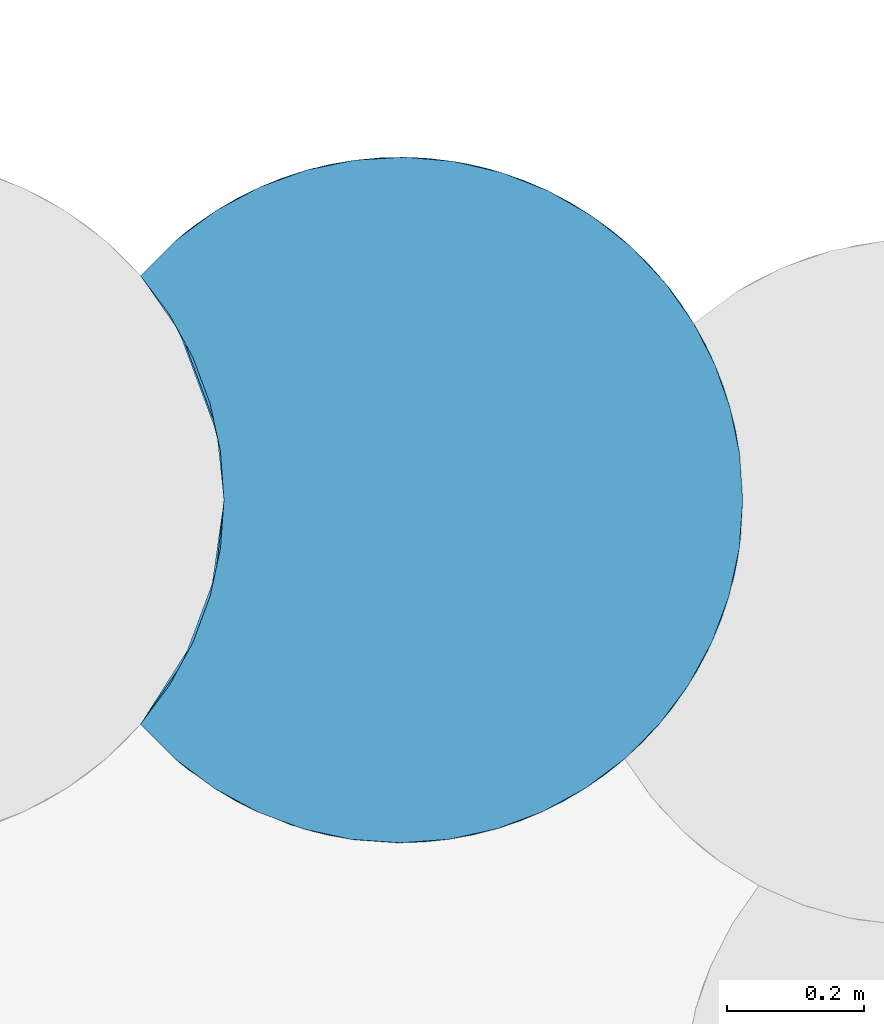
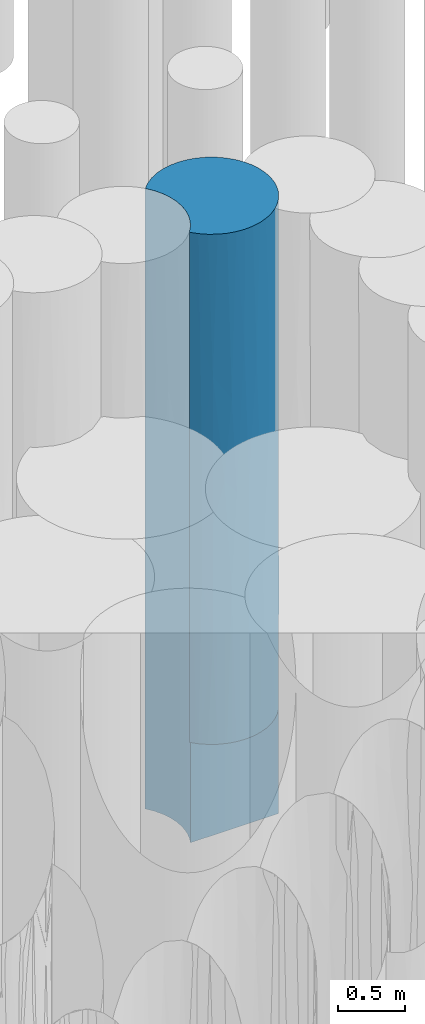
# One storey, part 31 of 104: 1 pile.
"""IFC2X3 building model written with IfcOpenShell, lengths in millimetres."""

import ifcopenshell
import ifcopenshell.guid

model = None  # the IFC model being written
_history = None  # IfcOwnerHistory: only IFC2X3 demands one
_inside = {}  # id of a spatial element -> (the spatial element, [elements in it])
_under = {}  # id of a project, library or spatial element -> (it, [spatial elements below it])
_declared = {}  # id of a project -> (the project, [libraries it declares])
_typed = {}  # id of a type object -> (the type object, [elements of that type])
_made_of = {}  # id of a material, layer set ... -> (it, [elements and type objects made of it])


def new_model(schema):
    """Start an empty IFC model of exactly this schema.

    Asked for "IFC4X3", IfcOpenShell would pick the latest addendum, in which some entities
    have other attributes; the version numbers below select the first issue.
    IFC2X3 requires an IfcOwnerHistory on every rooted entity: one is made here for all.
    """
    global model, _history
    if schema == "IFC4X3":
        model = ifcopenshell.file(schema_version=(4, 3, 0, 0))
    else:
        model = ifcopenshell.file(schema=schema)
    _inside.clear()
    _under.clear()
    _declared.clear()
    _typed.clear()
    _made_of.clear()
    _history = None
    if model.schema == "IFC2X3":
        org = make("IfcOrganization", Name="unknown")
        user = make(
            "IfcPersonAndOrganization",
            ThePerson=make("IfcPerson", FamilyName="unknown"),
            TheOrganization=org,
        )
        app = make(
            "IfcApplication",
            ApplicationDeveloper=org,
            Version="unknown",
            ApplicationFullName="unknown",
            ApplicationIdentifier="unknown",
        )
        _history = make(
            "IfcOwnerHistory",
            OwningUser=user,
            OwningApplication=app,
            ChangeAction="ADDED",
            CreationDate=0,
        )
    return model


def make(cls, **values):
    """One entity of the class cls with the attributes given. An attribute that is None is left unset."""
    return model.create_entity(
        cls, **{name: value for name, value in values.items() if value is not None}
    )


def entity(cls, *values):
    """Any entity or typed value of the class cls, its attributes in the order of the schema. None: left unset."""
    e = model.create_entity(cls)
    for i, value in enumerate(values):
        if value is not None:
            e[i] = value
    return e


def rooted(cls, **values):
    """An entity with a GlobalId (a new one), such as an element, a storey or a relation."""
    return make(cls, GlobalId=ifcopenshell.guid.new(), OwnerHistory=_history, **values)


def si_unit(unit_type, name, prefix=None):
    """IfcSIUnit, for example si_unit("LENGTHUNIT", "METRE", prefix="MILLI")."""
    return make("IfcSIUnit", UnitType=unit_type, Prefix=prefix, Name=name)


def converted_unit(unit_type, name, factor, base, dimensions=None, offset=None):
    """IfcConversionBasedUnit, such as the inch: factor (a typed value) times the base unit."""
    return make(
        "IfcConversionBasedUnit"
        if offset is None
        else "IfcConversionBasedUnitWithOffset",
        ConversionOffset=offset,
        Dimensions=None
        if dimensions is None
        else entity("IfcDimensionalExponents", *dimensions),
        UnitType=unit_type,
        Name=name,
        ConversionFactor=make(
            "IfcMeasureWithUnit", ValueComponent=factor, UnitComponent=base
        ),
    )


def derived_unit(unit_type, elements):
    """IfcDerivedUnit: a product of units, each with its exponent."""
    return make(
        "IfcDerivedUnit",
        Elements=[
            make("IfcDerivedUnitElement", Unit=unit, Exponent=power)
            for unit, power in elements
        ],
        UnitType=unit_type,
    )


def assignment(units):
    """IfcUnitAssignment: the units of a project."""
    return None if units is None else make("IfcUnitAssignment", Units=units)


def point(xyz):
    """IfcCartesianPoint."""
    return None if xyz is None else make("IfcCartesianPoint", Coordinates=xyz)


def direction(xyz):
    """IfcDirection."""
    return None if xyz is None else make("IfcDirection", DirectionRatios=xyz)


def frame(location, z_axis=None, x_axis=None):
    """IfcAxis2Placement3D, a coordinate frame: its origin and axes. An axis left out is left unset."""
    return make(
        "IfcAxis2Placement3D",
        Location=point(location),
        Axis=direction(z_axis),
        RefDirection=direction(x_axis),
    )


def origin():
    """The frame at (0, 0, 0) with its axes left unset."""
    return frame((0.0, 0.0, 0.0))


def place(relative_to, where):
    """IfcLocalPlacement: puts the frame where relative to a parent placement (None: the world)."""
    return make(
        "IfcLocalPlacement", PlacementRelTo=relative_to, RelativePlacement=where
    )


def context(
    kind, dimensions, precision=None, world=None, true_north=None, identifier=None
):
    """IfcGeometricRepresentationContext, for example the 3D "Model" context."""
    return make(
        "IfcGeometricRepresentationContext",
        ContextIdentifier=identifier,
        ContextType=kind,
        CoordinateSpaceDimension=dimensions,
        Precision=precision,
        WorldCoordinateSystem=world,
        TrueNorth=true_north,
    )


def subcontext(parent, identifier, kind, view, scale=None):
    """IfcGeometricRepresentationSubContext, for example "Body" below "Model"."""
    return make(
        "IfcGeometricRepresentationSubContext",
        ContextIdentifier=identifier,
        ContextType=kind,
        ParentContext=parent,
        TargetScale=scale,
        TargetView=view,
    )


def project(units=None, contexts=None):
    """IfcProject with its units and contexts."""
    return rooted(
        "IfcProject",
        Name="project",
        RepresentationContexts=contexts,
        UnitsInContext=assignment(units),
    )


def spatial(cls, under=None, at=None, **own):
    """A site, building, storey or space (cls), placed at a placement, below another one or the project."""
    s = rooted(cls, ObjectPlacement=at, **own)
    if under is not None:
        _under.setdefault(under.id(), (under, []))[1].append(s)
    return s


def faces_of(points, faces, orient=None, outer=None):
    """IfcFace entities. A face is a list of loops; a loop is a list of indices into points, from 0.

    orient and outer hold one flag for each loop. By default every Orientation is true, the
    first loop of a face is its IfcFaceOuterBound and the others are IfcFaceBound.
    """
    made = []
    for i, loops in enumerate(faces):
        bounds = []
        for j, loop in enumerate(loops):
            is_outer = j == 0 if outer is None else outer[i][j]
            bounds.append(
                make(
                    "IfcFaceOuterBound" if is_outer else "IfcFaceBound",
                    Bound=make("IfcPolyLoop", Polygon=[points[k] for k in loop]),
                    Orientation=True if orient is None else orient[i][j],
                )
            )
        made.append(make("IfcFace", Bounds=bounds))
    return made


def faceted_brep(points, faces, orient=None, outer=None, voids=None):
    """IfcFacetedBrep: a solid bounded by flat faces; with voids (closed shells), ...WithVoids."""
    shared = [point(p) for p in points]
    hull = make("IfcClosedShell", CfsFaces=faces_of(shared, faces, orient, outer))
    if voids is None:
        return make("IfcFacetedBrep", Outer=hull)
    return make(
        "IfcFacetedBrepWithVoids",
        Outer=hull,
        Voids=[
            make(cls, CfsFaces=faces_of(shared, fs, o, b)) for cls, fs, o, b in voids
        ],
    )


def shape(context_of_items, identifier, shape_type, items):
    """IfcShapeRepresentation: the items that make up one representation, for example the "Body"."""
    return make(
        "IfcShapeRepresentation",
        ContextOfItems=context_of_items,
        RepresentationIdentifier=identifier,
        RepresentationType=shape_type,
        Items=items,
    )


def source(mapping_origin, context_of_items, identifier, shape_type, items):
    """IfcRepresentationMap: a shape defined once, which mapped items show again and again."""
    return make(
        "IfcRepresentationMap",
        MappingOrigin=mapping_origin,
        MappedRepresentation=shape(context_of_items, identifier, shape_type, items),
    )


def transform(
    local_origin,
    x_axis=None,
    y_axis=None,
    z_axis=None,
    scale=None,
    scale2=None,
    scale3=None,
    uniform=True,
):
    """IfcCartesianTransformationOperator3D, or its non-uniform kind. x_axis, y_axis, z_axis: its Axis1, 2, 3."""
    if uniform:
        return make(
            "IfcCartesianTransformationOperator3D",
            Axis1=direction(x_axis),
            Axis2=direction(y_axis),
            LocalOrigin=point(local_origin),
            Scale=scale,
            Axis3=direction(z_axis),
        )
    return make(
        "IfcCartesianTransformationOperator3DnonUniform",
        Axis1=direction(x_axis),
        Axis2=direction(y_axis),
        LocalOrigin=point(local_origin),
        Scale=scale,
        Axis3=direction(z_axis),
        Scale2=scale2,
        Scale3=scale3,
    )


def mapped(mapping_source, mapping_target):
    """IfcMappedItem: shows the shape of a source again, moved by a transform."""
    return make(
        "IfcMappedItem", MappingSource=mapping_source, MappingTarget=mapping_target
    )


def material(Name=None, Category=None):
    """IfcMaterial."""
    return make("IfcMaterial", Name=Name, Category=Category)


def made_of(thing, what):
    """Note that an element or type object is made of a material, layer set ...; save() writes the relation."""
    if what is not None:
        _made_of.setdefault(what.id(), (what, []))[1].append(thing)
    return thing


def element(
    cls,
    number,
    at=None,
    inside=None,
    cuts=None,
    type_object=None,
    material=None,
    context=None,
    identifier="Body",
    shape_type=None,
    held_by="IfcProductDefinitionShape",
    body=None,
    shapes=None,
    **own,
):
    """One element of the class cls, such as IfcWall. Its Tag is "e" and its number.

    at: its placement. inside: the storey or other place that contains it. cuts: it is an
    opening in that element (IfcRelVoidsElement). A single representation is given by context,
    identifier, shape_type and body (its items); several are given by shapes. held_by: the class
    of the entity that holds the representations. save() writes the other relations.
    """
    e = rooted(cls, Tag="e%d" % number, ObjectPlacement=at, **own)
    if body is not None:
        shapes = [shape(context, identifier, shape_type, body)]
    if shapes is not None:
        e.Representation = make(held_by, Representations=shapes)
    if inside is not None:
        _inside.setdefault(inside.id(), (inside, []))[1].append(e)
    if cuts is not None:
        rooted(
            "IfcRelVoidsElement", RelatingBuildingElement=cuts, RelatedOpeningElement=e
        )
    if type_object is not None:
        _typed.setdefault(type_object.id(), (type_object, []))[1].append(e)
    return made_of(e, material)


def aggregate(whole, parts):
    """IfcRelAggregates: a whole, such as a stair, and the parts it consists of."""
    return rooted("IfcRelAggregates", RelatingObject=whole, RelatedObjects=parts)


def save(model, path):
    """Write the relations noted so far, then the file.

    IfcRelAggregates (storeys below a building ...), IfcRelContainedInSpatialStructure (elements
    in a storey), IfcRelDefinesByType, IfcRelAssociatesMaterial and IfcRelDeclares: one each for
    every whole, place, type object, material and project.
    """
    for whole, parts in _under.values():
        aggregate(whole, parts)
    for where, things in _inside.values():
        rooted(
            "IfcRelContainedInSpatialStructure",
            RelatedElements=things,
            RelatingStructure=where,
        )
    for kind, things in _typed.values():
        rooted("IfcRelDefinesByType", RelatedObjects=things, RelatingType=kind)
    for what, things in _made_of.values():
        rooted("IfcRelAssociatesMaterial", RelatedObjects=things, RelatingMaterial=what)
    for by, libraries in _declared.values():
        rooted("IfcRelDeclares", RelatingContext=by, RelatedDefinitions=libraries)
    model.write(path)


model = new_model("IFC2X3")

# Units and contexts
model_context = context("Model", 3, precision=0.01, world=origin(), true_north=direction((6.12303176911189e-17, 1.0)))
body_context = subcontext(model_context, "Body", "Model", "MODEL_VIEW")
ifc_project = project(units=[si_unit("LENGTHUNIT", "METRE", prefix="MILLI"), si_unit("AREAUNIT", "SQUARE_METRE", prefix="MILLI"), si_unit("VOLUMEUNIT", "CUBIC_METRE"), converted_unit("PLANEANGLEUNIT", "DEGREE", entity("IfcRatioMeasure", 0.0174532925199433), si_unit("PLANEANGLEUNIT", "RADIAN"), dimensions=[0, 0, 0, 0, 0, 0, 0]), si_unit("MASSUNIT", "GRAM", prefix="KILO"), derived_unit("MASSDENSITYUNIT", [(si_unit("MASSUNIT", "GRAM", prefix="KILO"), 1), (si_unit("LENGTHUNIT", "METRE"), -3)]), derived_unit("MOMENTOFINERTIAUNIT", [(si_unit("LENGTHUNIT", "METRE"), 4)]), si_unit("TIMEUNIT", "SECOND"), si_unit("FREQUENCYUNIT", "HERTZ"), si_unit("THERMODYNAMICTEMPERATUREUNIT", "DEGREE_CELSIUS"), derived_unit("THERMALTRANSMITTANCEUNIT", [(si_unit("MASSUNIT", "GRAM", prefix="KILO"), 1), (si_unit("THERMODYNAMICTEMPERATUREUNIT", "KELVIN"), -1), (si_unit("TIMEUNIT", "SECOND"), -3)]), derived_unit("VOLUMETRICFLOWRATEUNIT", [(si_unit("LENGTHUNIT", "METRE"), 3), (si_unit("TIMEUNIT", "SECOND"), -1)]), si_unit("ELECTRICCURRENTUNIT", "AMPERE"), si_unit("ELECTRICVOLTAGEUNIT", "VOLT"), si_unit("POWERUNIT", "WATT"), si_unit("FORCEUNIT", "NEWTON", prefix="KILO"), si_unit("ILLUMINANCEUNIT", "LUX"), si_unit("LUMINOUSFLUXUNIT", "LUMEN"), si_unit("LUMINOUSINTENSITYUNIT", "CANDELA"), derived_unit("USERDEFINED", [(si_unit("MASSUNIT", "GRAM", prefix="KILO"), -1), (si_unit("LENGTHUNIT", "METRE"), -2), (si_unit("TIMEUNIT", "SECOND"), 3), (si_unit("LUMINOUSFLUXUNIT", "LUMEN"), 1)]), derived_unit("LINEARVELOCITYUNIT", [(si_unit("LENGTHUNIT", "METRE"), 1), (si_unit("TIMEUNIT", "SECOND"), -1)]), si_unit("PRESSUREUNIT", "PASCAL"), derived_unit("USERDEFINED", [(si_unit("LENGTHUNIT", "METRE"), -2), (si_unit("MASSUNIT", "GRAM", prefix="KILO"), 1), (si_unit("TIMEUNIT", "SECOND"), -2)]), derived_unit("LINEARFORCEUNIT", [(si_unit("MASSUNIT", "GRAM", prefix="KILO"), 1), (si_unit("LENGTHUNIT", "METRE"), 1), (si_unit("TIMEUNIT", "SECOND"), -2), (si_unit("LENGTHUNIT", "METRE"), -1)]), derived_unit("PLANARFORCEUNIT", [(si_unit("MASSUNIT", "GRAM", prefix="KILO"), 1), (si_unit("LENGTHUNIT", "METRE"), 1), (si_unit("TIMEUNIT", "SECOND"), -2), (si_unit("LENGTHUNIT", "METRE"), -2)])], contexts=[model_context])

# Site, building, storey
site_placement = place(None, origin())
site = spatial("IfcSite", under=ifc_project, at=site_placement, Name="Theater aan de Parade", CompositionType="ELEMENT")
building_placement = place(site_placement, origin())
building = spatial("IfcBuilding", under=site, at=building_placement, Name="Theater aan de Parade", CompositionType="ELEMENT")
storey_placement = place(building_placement, frame((0.0, 0.0, -5520.0)))
storey = spatial("IfcBuildingStorey", under=building, at=storey_placement, Name="-2 kelder", CompositionType="ELEMENT", Elevation=-5520.0)

# Pile
ifc_material = material(Name="00_PBT_MAT_grout")
shared_shape = source(origin(), body_context, "Body", "Brep", [
    faceted_brep([(386.546960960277, 1001.55082871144, 0.0), (458.827546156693, 995.323369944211, 0.0), (529.445806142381, 978.701506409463, 0.0), (596.915234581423, 952.035201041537, 0.0), (659.815588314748, 915.885766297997, 0.0), (716.822751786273, 871.014061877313, 0.0), (766.736582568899, 818.364500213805, 0.0), (808.498668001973, 759.045970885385, 0.0), (839.296988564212, 698.919712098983, 0.0), (861.703406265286, 635.188513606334, 0.0), (875.31445823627, 569.016887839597, 0.0), (879.88098652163, 501.595265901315, 0.0), (876.63717714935, 444.733265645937, 0.0), (866.963513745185, 388.676659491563, 0.0), (850.978622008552, 334.06312618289, 0.0), (828.879872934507, 281.595265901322, 0.0), (72.308444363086, 281.595265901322, 0.0), (94.40199820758, 334.048517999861, 0.0), (110.389831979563, 388.666940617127, 0.0), (120.066807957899, 444.742521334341, 0.0), (123.309557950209, 501.595265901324, 0.0), (118.238136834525, 572.628369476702, 0.0), (103.126750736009, 642.220517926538, 0.0), (78.2819444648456, 708.959986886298, 0.0), (44.2077119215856, 771.492920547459, 0.0), (1.59527223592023, 828.550795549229, 0.0), (52.8997878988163, 879.858792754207, 0.0), (111.085086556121, 923.197879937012, 0.0), (174.929389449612, 957.659782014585, 0.0), (243.087879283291, 982.519008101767, 0.0), (314.125563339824, 997.252631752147, 0.0), (824.919145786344, 729.501028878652, 3316.94115829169), (851.577771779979, 667.432966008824, 4405.64511950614), (868.707683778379, 606.706921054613, 3353.06962819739), (879.880986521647, 501.595265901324, 4058.46227500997), (875.314458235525, 569.016887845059, 5620.0), (824.919147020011, 729.501026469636, 936.061030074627), (742.735845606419, 845.595776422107, 818.327385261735), (851.577772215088, 667.432964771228, 1702.09230881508), (869.627798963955, 602.33284430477, 936.069764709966), (473.623982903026, 992.728904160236, 4763.34278896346), (563.664804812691, 966.593661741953, 4670.90025794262), (494.438544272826, 988.29493300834, 3917.96061134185), (788.699988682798, 789.461595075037, 4402.54033579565), (766.7365824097, 818.364500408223, 5620.0), (808.508480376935, 759.041321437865, 5620.0), (474.478801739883, 992.564973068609, 2779.45887211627), (629.021918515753, 935.102816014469, 2810.0), (494.438544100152, 988.294933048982, 1640.95713254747), (511.712343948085, 983.902733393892, 819.864786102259), (73.3583643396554, 896.619166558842, 1477.93672075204), (1.5952722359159, 828.550795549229, 1561.53797879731), (278.339138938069, 991.175957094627, 1389.22088915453), (629.021919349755, 935.102815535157, 1329.13327460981), (772.416551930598, 811.298074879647, 3605.36640899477), (766.454356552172, 818.708856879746, 2774.39719979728), (702.405461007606, 883.665892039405, 2445.521784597), (713.992691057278, 873.57559991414, 3320.78584998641), (81.2053145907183, 902.585094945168, 4634.68058879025), (52.8997879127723, 879.858792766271, 5620.0), (111.08508650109, 923.197879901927, 5620.0), (867.735897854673, 611.128756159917, 2440.26708246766), (879.880986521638, 501.59526590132, 1561.53772498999), (593.976276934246, 953.439494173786, 3729.71909501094), (395.950275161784, 1001.33697715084, 1820.71635837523), (458.827546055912, 995.323369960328, 5620.0), (386.5469608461, 1001.55082871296, 5620.0), (422.80035009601, 999.749788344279, 922.209814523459), (839.296988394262, 698.919712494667, 5620.0), (861.703406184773, 635.188513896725, 5620.0), (836.526262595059, 705.249609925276, 2485.08602649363), (1.5952722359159, 828.550795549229, 3123.07595759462), (62.833872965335, 888.22315908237, 3590.76885421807), (68.4459364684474, 892.757904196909, 2583.88458538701), (350.258201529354, 1000.71698513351, 4278.57580163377), (314.125563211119, 997.252631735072, 5620.0), (659.815588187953, 915.885766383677, 5620.0), (716.822751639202, 871.01406201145, 5620.0), (689.134086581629, 894.48522518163, 4155.59177934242), (174.929389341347, 957.659781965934, 5620.0), (243.087879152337, 982.519008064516, 5620.0), (208.557152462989, 971.3272574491, 4634.68204079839), (806.559349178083, 762.258985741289, 1850.80255012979), (742.735845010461, 845.595777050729, 1702.04313066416), (1.59527223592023, 828.550795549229, 5620.0), (142.381347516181, 941.588358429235, 966.640534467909), (142.381347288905, 941.588358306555, 1989.23290789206), (253.885214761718, 985.459984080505, 3591.84080813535), (142.381347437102, 941.588358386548, 3836.58988669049), (403.612313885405, 1001.03177247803, 3465.57335885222), (1.59527223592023, 828.550795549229, 4058.46202120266), (596.915234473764, 952.035201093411, 5620.0), (529.445806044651, 978.7015064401, 5620.0), (879.880986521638, 501.59526590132, 5620.0), (147.112830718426, 944.109656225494, 2912.91139717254), (240.330907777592, 981.726264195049, 2400.41243193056), (350.258200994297, 1000.71698510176, 2652.57091928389), (879.880986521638, 501.595265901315, 2810.0), (879.880986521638, 501.59526590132, 2496.92455001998), (109.240708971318, 81.1742386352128, 1000.0), (171.936986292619, 46.8873456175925, 1000.0), (139.975535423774, 62.9093024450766, 1960.90055004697), (868.238983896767, 394.327067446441, 1095.82872951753), (52.071779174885, 124.049078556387, 1000.0), (72.2414485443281, 107.440582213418, 2468.66507297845), (848.445610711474, 327.104025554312, 4078.69123255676), (868.663652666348, 396.279050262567, 3242.81365700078), (872.094055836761, 413.695923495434, 4636.03026956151), (273.517040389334, 13.0395260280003, 2397.90893049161), (238.878830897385, 21.8886971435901, 1000.0), (308.699030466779, 6.68807345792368, 1000.0), (379.971792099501, 1.5952741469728, 1000.0), (451.241808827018, 6.71383258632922, 1000.0), (415.698352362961, 2.87979962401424, 2131.62936539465), (619.922414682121, 62.9836919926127, 4689.65272391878), (521.0402486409, 21.9349040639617, 5620.0), (486.406911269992, 13.0748186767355, 4394.93204252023), (139.972621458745, 62.9108960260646, 4329.43311961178), (171.932816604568, 46.8892524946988, 5620.0), (109.238978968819, 81.1753523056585, 5620.0), (415.698352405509, 2.87979962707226, 3309.99156219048), (375.010186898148, 1.61899115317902, 4574.34898454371), (139.97553546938, 62.909302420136, 2976.42959565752), (554.965868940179, 33.2521396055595, 2411.3686632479), (521.053921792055, 21.9389281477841, 1000.0), (587.982775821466, 46.9595377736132, 1000.0), (865.131809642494, 381.048019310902, 2185.76885280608), (650.661866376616, 81.2647827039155, 1000.0), (680.007396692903, 101.69010474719, 2279.3618995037), (238.872127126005, 21.8906676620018, 5620.0), (1.59527223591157, 174.639736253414, 2561.53770750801), (1.59527223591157, 174.63973625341, 3342.30656126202), (1.5952722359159, 174.63973625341, 4123.07541501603), (71.0537597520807, 108.370465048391, 3732.69098814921), (61.1526896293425, 116.352131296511, 4663.10999498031), (523.709634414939, 22.7285620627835, 3378.43242521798), (619.922414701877, 62.983692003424, 3702.99414053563), (219.921631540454, 27.8727682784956, 3376.89197082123), (314.025229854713, 5.95122093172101, 3256.19556074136), (1.59527223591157, 174.639736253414, 1000.0), (273.509122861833, 13.0412498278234, 4114.44939776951), (308.689905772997, 6.68938593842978, 5620.0), (776.234787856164, 196.794242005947, 3307.37546984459), (813.228244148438, 252.175630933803, 2214.63691256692), (834.322556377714, 293.069824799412, 3129.44313854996), (828.879872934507, 281.595265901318, 1000.0), (451.229026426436, 6.71198956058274, 5620.0), (379.960576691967, 1.5952722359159, 5620.0), (707.818255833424, 124.160308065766, 1000.0), (795.65170689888, 223.863906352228, 1000.0), (753.561487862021, 169.386170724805, 1970.35921737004), (800.734833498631, 231.628528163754, 5620.0), (800.54260504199, 231.329095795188, 4225.41488317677), (834.825894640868, 294.170266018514, 5620.0), (755.058401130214, 171.077630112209, 1000.0), (733.85420486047, 148.462202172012, 4411.3391515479), (758.104243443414, 174.567487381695, 5620.0), (707.806619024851, 124.150197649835, 5620.0), (587.968984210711, 46.95322515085, 5620.0), (859.68477635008, 360.924290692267, 5620.0), (1.5952722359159, 174.63973625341, 5620.0), (650.648755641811, 81.2563369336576, 5620.0), (874.805629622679, 430.534744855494, 5620.0), (700.719611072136, 118.10787758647, 3255.05944494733), (52.0720753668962, 124.048821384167, 5620.0), (118.238136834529, 572.628369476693, 5620.0), (123.309557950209, 501.595265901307, 5620.0), (118.238136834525, 430.562162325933, 5620.0), (103.126750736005, 360.970013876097, 5620.0), (78.2819444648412, 294.230544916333, 5620.0), (44.2077119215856, 231.697611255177, 5620.0), (44.2077119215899, 771.492920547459, 5620.0), (78.2819444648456, 708.959986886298, 5620.0), (103.126750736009, 642.220517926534, 5620.0), (57.6972719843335, 749.198403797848, 1466.5777030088), (91.8940522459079, 676.033139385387, 959.607558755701), (91.8940518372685, 676.033140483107, 1973.54784366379), (51.0253182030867, 760.553232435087, 3590.76885486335), (55.246519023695, 753.449314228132, 2591.96489924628), (114.79086865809, 593.498047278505, 2591.96487227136), (113.865321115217, 598.316738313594, 1466.57769835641), (123.309557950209, 501.595265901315, 1561.53772533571), (116.242558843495, 585.363139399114, 3590.76885123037), (123.309557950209, 501.595265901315, 3123.07545067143), (123.309557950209, 501.595265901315, 4058.46227466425), (91.8940514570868, 676.033141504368, 3856.2082679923), (111.923000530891, 607.693822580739, 4646.91290735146), (62.3595462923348, 740.833865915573, 4646.91290345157), (123.309557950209, 501.595265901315, 2810.0), (62.3595469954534, 262.356667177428, 4717.37896061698), (111.564927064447, 393.860895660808, 1098.76555933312), (72.3084443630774, 281.595265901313, 1000.0), (103.748191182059, 363.108011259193, 2185.76885279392), (59.5557267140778, 257.281368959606, 2036.35430148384), (80.3363404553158, 298.798520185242, 3013.88536214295), (40.3944701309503, 225.841433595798, 1000.0), (52.9290067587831, 245.807992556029, 3897.62512214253), (111.923000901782, 395.496710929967, 4717.37896068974), (91.894052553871, 327.157393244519, 4015.2108533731), (113.298293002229, 402.041061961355, 3273.65625530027)], [[[0, 1, 2, 3, 4, 5, 6, 7, 8, 9, 10, 11, 12, 13, 14, 15, 16, 17, 18, 19, 20, 21, 22, 23, 24, 25, 26, 27, 28, 29, 30]], [[31, 32, 33]], [[34, 32, 35]], [[36, 8, 7]], [[7, 37, 36]], [[38, 39, 36]], [[40, 41, 42]], [[43, 44, 45]], [[46, 47, 48]], [[2, 49, 3]], [[50, 26, 51]], [[30, 29, 52]], [[4, 53, 37]], [[3, 53, 4]], [[54, 31, 55]], [[56, 57, 55]], [[6, 5, 37]], [[58, 59, 60]], [[61, 62, 39]], [[41, 63, 42]], [[48, 64, 46]], [[39, 10, 9]], [[65, 40, 66]], [[67, 64, 48]], [[68, 69, 32]], [[45, 68, 32]], [[53, 3, 49]], [[70, 33, 61]], [[71, 72, 73]], [[43, 45, 32]], [[74, 75, 66]], [[76, 77, 78]], [[79, 80, 81]], [[41, 76, 78]], [[38, 36, 82]], [[30, 52, 67]], [[53, 83, 37]], [[48, 49, 67]], [[84, 59, 58]], [[52, 29, 85]], [[81, 58, 60]], [[86, 85, 50]], [[11, 10, 39]], [[8, 36, 9]], [[81, 87, 88]], [[89, 42, 46]], [[51, 26, 25]], [[85, 28, 27]], [[33, 32, 34]], [[47, 53, 48]], [[90, 72, 71]], [[32, 31, 43]], [[91, 41, 92]], [[56, 53, 47]], [[41, 40, 92]], [[40, 65, 92]], [[35, 93, 34]], [[31, 70, 55]], [[67, 49, 1]], [[81, 88, 58]], [[73, 94, 86]], [[36, 39, 9]], [[95, 52, 86]], [[81, 75, 74]], [[85, 29, 28]], [[60, 79, 81]], [[43, 77, 44]], [[73, 51, 71]], [[1, 0, 67]], [[77, 43, 78]], [[35, 32, 69]], [[37, 7, 6]], [[36, 37, 82]], [[61, 39, 38]], [[11, 39, 62]], [[75, 81, 80]], [[87, 81, 74]], [[72, 58, 88]], [[84, 58, 90]], [[85, 27, 26]], [[52, 85, 86]], [[76, 41, 91]], [[78, 57, 63]], [[30, 67, 0]], [[64, 52, 96]], [[37, 5, 4]], [[37, 83, 82]], [[89, 87, 74]], [[94, 95, 86]], [[55, 82, 83]], [[70, 38, 82]], [[56, 55, 83]], [[55, 57, 54]], [[58, 72, 90]], [[94, 73, 72]], [[94, 72, 88]], [[73, 86, 50]], [[78, 63, 41]], [[46, 63, 47]], [[33, 34, 97, 98]], [[70, 61, 38]], [[52, 64, 67]], [[46, 64, 96]], [[88, 87, 94]], [[95, 87, 96]], [[87, 95, 94]], [[52, 95, 96]], [[26, 50, 85]], [[73, 50, 51]], [[55, 70, 82]], [[33, 70, 31]], [[33, 98, 61]], [[62, 61, 98]], [[42, 74, 40]], [[66, 40, 74]], [[53, 49, 48]], [[1, 49, 2]], [[53, 56, 83]], [[47, 63, 57]], [[47, 57, 56]], [[54, 78, 43]], [[78, 54, 57]], [[31, 54, 43]], [[89, 46, 96]], [[46, 42, 63]], [[87, 89, 96]], [[42, 89, 74]], [[99, 100, 101]], [[11, 62, 102]], [[103, 101, 104]], [[105, 106, 107]], [[108, 109, 110]], [[106, 34, 107]], [[111, 112, 113]], [[114, 115, 116]], [[117, 118, 119]], [[120, 116, 121]], [[101, 109, 108]], [[108, 110, 113]], [[108, 122, 101]], [[123, 124, 125]], [[126, 102, 62]], [[127, 128, 125]], [[117, 129, 118]], [[124, 123, 113]], [[130, 104, 131]], [[132, 133, 134]], [[135, 113, 123]], [[136, 135, 123]], [[133, 104, 122]], [[137, 108, 138]], [[139, 103, 130]], [[117, 140, 129]], [[129, 140, 141]], [[141, 140, 121]], [[142, 143, 144]], [[145, 14, 102]], [[146, 147, 121]], [[138, 120, 121]], [[146, 116, 115]], [[113, 110, 111]], [[128, 127, 148]], [[106, 126, 97]], [[149, 143, 150]], [[151, 152, 153]], [[150, 154, 149]], [[155, 156, 157]], [[126, 106, 144]], [[149, 145, 143]], [[126, 62, 98, 97]], [[113, 120, 138]], [[13, 102, 14]], [[114, 158, 115]], [[104, 101, 122]], [[12, 11, 102]], [[14, 145, 15]], [[101, 100, 109]], [[101, 103, 99]], [[159, 153, 105]], [[123, 125, 128]], [[160, 132, 134]], [[114, 161, 158]], [[123, 128, 136]], [[148, 154, 150]], [[137, 117, 122]], [[157, 114, 155]], [[142, 152, 155]], [[114, 157, 161]], [[155, 152, 156]], [[152, 151, 156]], [[93, 162, 107]], [[116, 136, 114]], [[135, 116, 120]], [[150, 142, 163]], [[163, 155, 136]], [[107, 159, 105]], [[136, 128, 163]], [[113, 112, 124]], [[146, 121, 116]], [[155, 114, 136]], [[119, 164, 134]], [[145, 126, 143]], [[133, 117, 134]], [[103, 104, 130]], [[133, 132, 131]], [[104, 133, 131]], [[122, 117, 133]], [[119, 134, 117]], [[160, 134, 164]], [[145, 102, 126]], [[12, 102, 13]], [[34, 106, 97]], [[144, 106, 105]], [[144, 105, 152]], [[126, 144, 143]], [[93, 107, 34]], [[159, 107, 162]], [[116, 135, 136]], [[113, 135, 120]], [[137, 138, 140]], [[113, 138, 108]], [[117, 137, 140]], [[108, 137, 122]], [[142, 150, 143]], [[148, 150, 128]], [[150, 163, 128]], [[155, 163, 142]], [[144, 152, 142]], [[152, 105, 153]], [[141, 121, 147]], [[121, 140, 138]], [[165, 166, 167, 168, 169, 170, 160, 164, 119, 118, 129, 141, 147, 146, 115, 158, 161, 157, 156, 151, 153, 159, 162, 93, 35, 69, 68, 45, 44, 77, 76, 91, 92, 65, 66, 75, 80, 79, 60, 59, 84, 171, 172, 173]], [[174, 175, 176]], [[177, 71, 178]], [[179, 180, 181]], [[24, 51, 25]], [[182, 183, 184]], [[21, 180, 175]], [[185, 186, 187]], [[22, 21, 175]], [[23, 22, 175]], [[71, 51, 178]], [[186, 165, 173]], [[186, 184, 166]], [[90, 71, 177]], [[172, 171, 187]], [[24, 23, 175]], [[173, 172, 186]], [[172, 187, 186]], [[185, 179, 182]], [[187, 171, 84]], [[51, 24, 174]], [[176, 175, 180]], [[181, 21, 20]], [[165, 186, 166]], [[184, 186, 182]], [[185, 187, 177]], [[90, 187, 84]], [[183, 182, 179]], [[185, 182, 186]], [[179, 181, 188, 183]], [[178, 176, 179]], [[90, 177, 187]], [[178, 179, 185]], [[177, 178, 185]], [[174, 176, 178]], [[175, 174, 24]], [[51, 174, 178]], [[176, 180, 179]], [[181, 180, 21]], [[170, 169, 189]], [[190, 17, 191]], [[192, 193, 194]], [[139, 193, 195]], [[190, 191, 192]], [[196, 130, 131, 132]], [[191, 195, 193]], [[166, 197, 167]], [[189, 132, 160]], [[196, 189, 198]], [[17, 16, 191]], [[194, 196, 198]], [[181, 192, 188]], [[170, 189, 160]], [[184, 197, 166]], [[197, 189, 169, 168]], [[18, 17, 190]], [[20, 19, 190]], [[184, 199, 197]], [[198, 189, 197]], [[167, 197, 168]], [[198, 197, 199]], [[132, 189, 196]], [[199, 194, 198]], [[190, 181, 20]], [[199, 188, 192]], [[194, 130, 196]], [[191, 193, 192]], [[193, 130, 194]], [[139, 130, 193]], [[194, 199, 192]], [[199, 184, 183, 188]], [[18, 190, 19]], [[181, 190, 192]], [[100, 99, 103, 139, 195, 191, 145, 149, 154, 148, 127, 125, 124, 112, 111, 110, 109]], [[145, 191, 16, 15]]]),
])
pile_placement = place(storey_placement, frame((38156.8342864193, 26760.7721374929, -3840.0)))
element("IfcPile", 1, at=pile_placement, inside=storey, material=ifc_material, Name="17_PBT_SFO_grondkering_rond:Ø1000 (grondkering)", ObjectType="17_PBT_SFO_grondkering_rond:Ø1000 (grondkering)", PredefinedType="NOTDEFINED", context=body_context, shape_type="MappedRepresentation", body=[
    mapped(shared_shape, transform((0.0, 0.0, 0.0), scale=1.0)),
])

save(model, "model.ifc")
